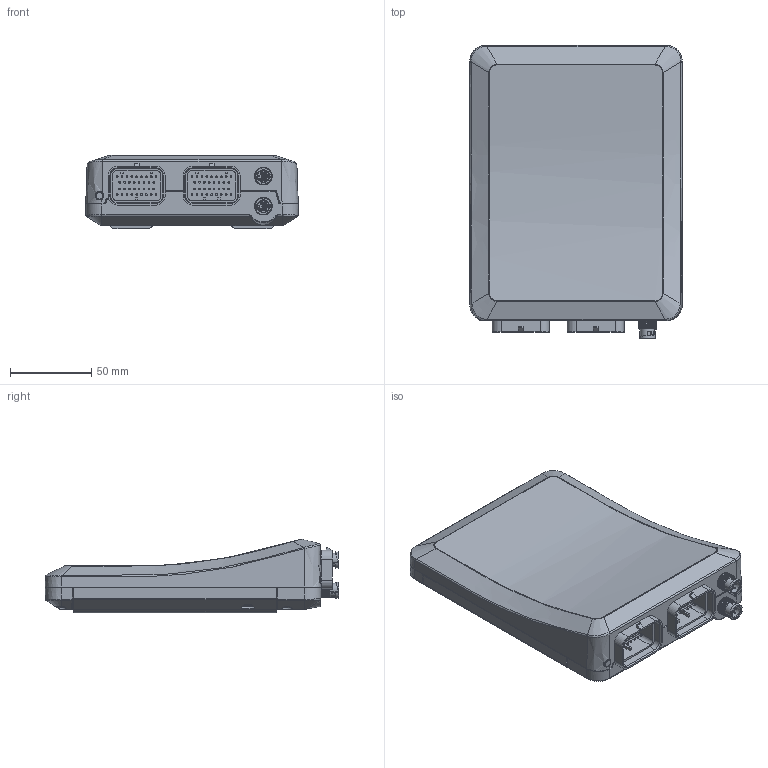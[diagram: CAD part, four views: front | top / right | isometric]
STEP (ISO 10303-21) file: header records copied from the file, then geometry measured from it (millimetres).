
FILE_DESCRIPTION(/* description */ ('STEP AP242','CAx-IF Rec.Pracs.---Representation and Presentation of Product Manufacturing Information (PMI)---4.0---2014-10-13','CAx-IF Rec.Pracs.---3D Tessellated Geometry---0.4---2014-09-14','2;1'),/* implementation_level */ '2;1');
FILE_NAME(/* name */ '67243b01a856fa277b290fc3',/* time_stamp */ '2024-11-01T02:20:51Z',/* author */ (''),/* organization */ (''),/* preprocessor_version */ 'ST-DEVELOPER v20',/* originating_system */ ' ',/* authorisation */ ' ');
FILE_SCHEMA (('AP242_MANAGED_MODEL_BASED_3D_ENGINEERING_MIM_LF { 1 0 10303 442 1 1 4 }'));
Products named in the file (3): Fury/Xtreme External Model; Fury/Xtreme/Storm Mounting Bracket
Assembly tree (2 placements, depth 2):
  Fury/Xtreme External Model
    Fury/Xtreme External Model
    Fury/Xtreme/Storm Mounting Bracket
Bounding box: 131.57 x 181.1 x 45.36 mm (x, y, z)
Volume: 659352.2 mm3; surface area: 114061.1 mm2
Topology: 2 solids, 15 shells, 1211 faces, 3004 edges, 1879 vertices
Faces by surface type: cylinder 460, plane 419, bspline 207, cone 66, sphere 33, torus 26
Full cylindrical faces by diameter (mm): 0.25 x2, 0.8 x12, 1 x68, 1.7 x12, 3 x4, 4.2 x1, 4.8 x1, 5.2 x1, 5.45 x4, 5.5 x4, 7.4 x2, 8 x2, 8.5 x2, 11 x1, 15.8 x1
Entity records: 48203 total; most frequent: CARTESIAN_POINT 19512, ORIENTED_EDGE 5462, DIRECTION 5441, EDGE_CURVE 2731, AXIS2_PLACEMENT_3D 2119, VERTEX_POINT 1821, EDGE_LOOP 1510, FACE_BOUND 1510
